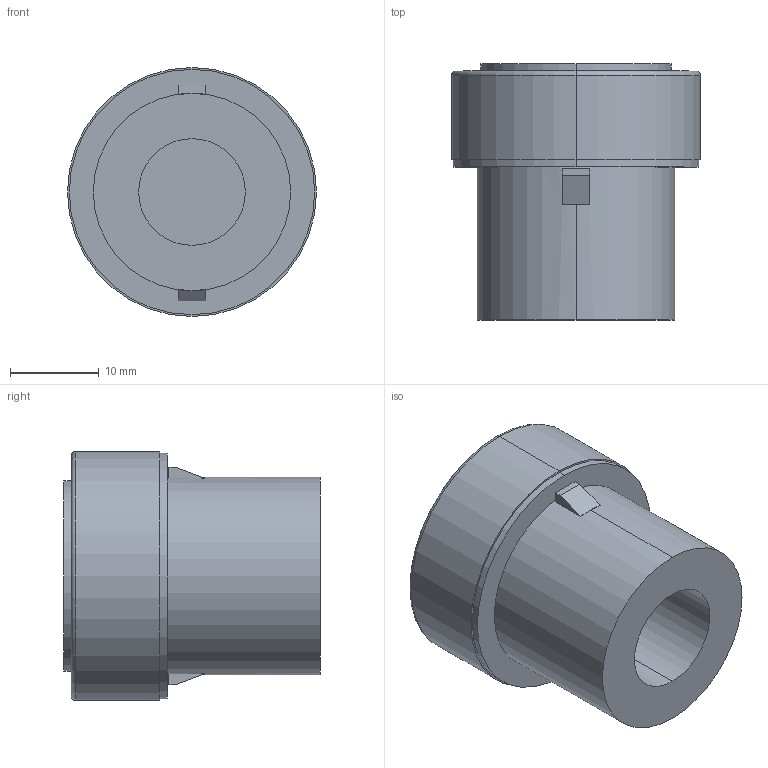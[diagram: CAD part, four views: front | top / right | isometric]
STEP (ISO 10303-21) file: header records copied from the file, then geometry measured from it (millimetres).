
FILE_DESCRIPTION (( 'STEP AP203' ), '1' );
FILE_NAME ('B3DL.STEP', '2012-12-11T07:08:30', ( 'edv' ), ( '' ), 'SwSTEP 2.0', 'SolidWorks 2013', '' );
FILE_SCHEMA (( 'CONFIG_CONTROL_DESIGN' ));
Length unit declared in the file: millimetre
Products named in the file (1): B3DL
Bounding box: 28 x 28.8 x 28 mm (x, y, z)
Volume: 10675.7 mm3; surface area: 4408.6 mm2
Topology: 1 solids, 1 shells, 30 faces, 66 edges, 42 vertices
Faces by surface type: plane 18, cylinder 10, torus 2
Entity records: 911 total; most frequent: DIRECTION 160, CARTESIAN_POINT 139, ORIENTED_EDGE 132, EDGE_CURVE 66, AXIS2_PLACEMENT_3D 63, VERTEX_POINT 42, LINE 34, EDGE_LOOP 34
